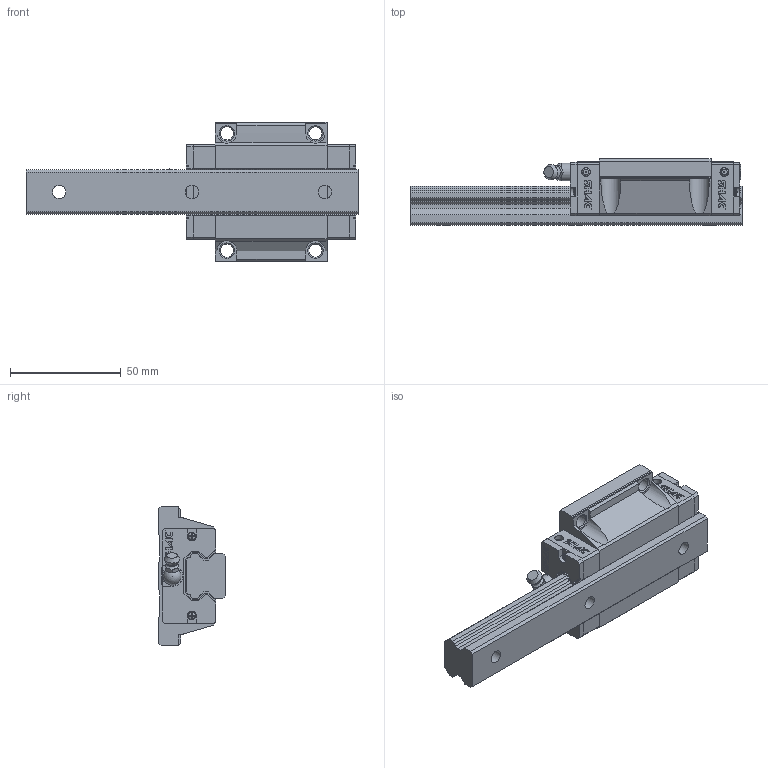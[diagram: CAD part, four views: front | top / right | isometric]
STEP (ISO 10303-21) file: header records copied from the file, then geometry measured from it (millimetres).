
FILE_DESCRIPTION( ( 'STEP AP214' ), '1' );
FILE_NAME( 'F:/品牌/SHAC 台湾鼎翰传动科技有限公司/3D滑块/GHW20CB1R150Z0C-15_15_1_1_.stp', '2025-04-21T22:47:32', ( 'License CC BY-ND 4.0' ), ( 'CADENAS' ), ' ', 'PARTsolutions', ' ' );
FILE_SCHEMA( ( 'AUTOMOTIVE_DESIGN { 1 0 10303 214 1 1 1 1 }' ) );
Length unit declared in the file: millimetre
Products named in the file (8): GHW20CB1R150Z0C-15/15(1_1); _GHR20R150C+RC-15/15(1)_RAIL; _GHW20CB_SLIDER; _GHW20CB_C; _GHW20CB_P; _GH20_SCREW; _GH20_BOLT; _GH20-_G
Assembly tree (12 placements, depth 2):
  GHW20CB1R150Z0C-15/15(1_1)
    _GHR20R150C+RC-15/15(1)_RAIL
    _GHW20CB_SLIDER
    _GHW20CB_C  x2
    _GHW20CB_P  x2
    _GH20_SCREW  x4
    _GH20_BOLT
    _GH20-_G
Bounding box: 150 x 30 x 63 mm (x, y, z)
Volume: 121575.4 mm3; surface area: 38020.1 mm2
Topology: 12 solids, 12 shells, 795 faces, 2127 edges, 1405 vertices
Faces by surface type: plane 644, cylinder 111, cone 24, torus 10, sphere 5, bspline 1
Full cylindrical faces by diameter (mm): 0.53 x4, 3 x4, 3.414 x4, 3.93 x6, 4.5 x1, 6 x11, 8 x1, 8.2 x1, 9.5 x3
Entity records: 18901 total; most frequent: CARTESIAN_POINT 2781, ORIENTED_EDGE 2490, DIRECTION 2404, EDGE_CURVE 1245, LINE 1022, VECTOR 1022, VERTEX_POINT 848, AXIS2_PLACEMENT_3D 691
